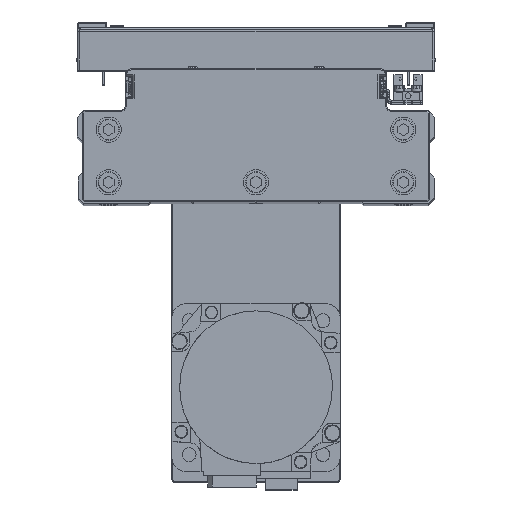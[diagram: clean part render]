
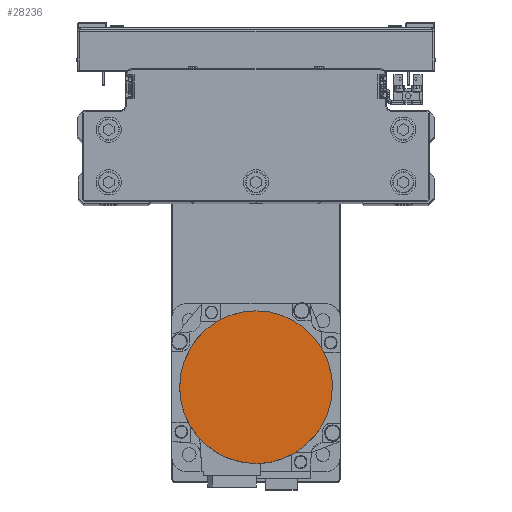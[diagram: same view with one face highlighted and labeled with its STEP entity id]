
A CAD part, top view. The second image highlights one B-rep face of the part: STEP entity #28236.
In plain terms, the highlighted planar face has unit normal (0, 0, 1) as drawn and (0, 0, -1) by its records, which use the part's own axes.
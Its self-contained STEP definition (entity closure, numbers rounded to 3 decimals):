
#55 = CARTESIAN_POINT ( 'NONE',  ( -31.502, 18.192, -122.2 ) ) ;
#732 = DIRECTION ( 'NONE',  ( 0., 0., 1. ) ) ;
#1511 = CARTESIAN_POINT ( 'NONE',  ( -27.348, -23.988, -122.2 ) ) ;
#1566 = VERTEX_POINT ( 'NONE', #12594 ) ;
#2055 = DIRECTION ( 'NONE',  ( -1., 0., 0. ) ) ;
#2376 = AXIS2_PLACEMENT_3D ( 'NONE', #31340, #732, #14365 ) ;
#3399 = CARTESIAN_POINT ( 'NONE',  ( -23.988, 27.348, -122.2 ) ) ;
#4074 = FACE_OUTER_BOUND ( 'NONE', #33951, .T. ) ;
#4852 = CARTESIAN_POINT ( 'NONE',  ( -32.628, -16.086, -122.2 ) ) ;
#5690 = CIRCLE ( 'NONE', #30690, 36.3 ) ;
#6741 = CARTESIAN_POINT ( 'NONE',  ( -16.086, 32.628, -122.2 ) ) ;
#6965 = AXIS2_PLACEMENT_3D ( 'NONE', #19067, #32686, #2055 ) ;
#6966 = EDGE_CURVE ( 'NONE', #1566, #20351, #32400, .T. ) ;
#8202 = CARTESIAN_POINT ( 'NONE',  ( -36.066, -4.752, -122.2 ) ) ;
#8421 = CARTESIAN_POINT ( 'NONE',  ( -4.752, -36.066, -122.2 ) ) ;
#10105 = CARTESIAN_POINT ( 'NONE',  ( -4.752, 36.066, -122.2 ) ) ;
#10329 = CARTESIAN_POINT ( 'NONE',  ( -36.066, 4.752, -122.2 ) ) ;
#10598 = CARTESIAN_POINT ( 'NONE',  ( 36.3, 0., -122.2 ) ) ;
#10806 = DIRECTION ( 'NONE',  ( -1., 0., 0. ) ) ;
#11444 = VERTEX_POINT ( 'NONE', #10598 ) ;
#11796 = CARTESIAN_POINT ( 'NONE',  ( -16.086, -32.628, -122.2 ) ) ;
#11867 = VERTEX_POINT ( 'NONE', #17484 ) ;
#12594 = CARTESIAN_POINT ( 'NONE',  ( -36.3, 0., -122.2 ) ) ;
#12706 = ORIENTED_EDGE ( 'NONE', *, *, #30549, .F. ) ;
#13683 = CARTESIAN_POINT ( 'NONE',  ( -32.628, 16.086, -122.2 ) ) ;
#14365 = DIRECTION ( 'NONE',  ( 1., 0., 0. ) ) ;
#14561 = ORIENTED_EDGE ( 'NONE', *, *, #15713, .F. ) ;
#15138 = CARTESIAN_POINT ( 'NONE',  ( -23.988, -27.348, -122.2 ) ) ;
#15713 = EDGE_CURVE ( 'NONE', #11867, #1566, #37974, .T. ) ;
#16387 = EDGE_CURVE ( 'NONE', #11444, #11867, #5690, .T. ) ;
#17032 = CARTESIAN_POINT ( 'NONE',  ( -27.348, 23.988, -122.2 ) ) ;
#17484 = CARTESIAN_POINT ( 'NONE',  ( 0., 36.3, -122.2 ) ) ;
#17722 = PLANE ( 'NONE',  #2376 ) ;
#18512 = CARTESIAN_POINT ( 'NONE',  ( -31.502, -18.192, -122.2 ) ) ;
#19067 = CARTESIAN_POINT ( 'NONE',  ( 0., 0., -122.2 ) ) ;
#20351 = VERTEX_POINT ( 'NONE', #26315 ) ;
#20399 = CARTESIAN_POINT ( 'NONE',  ( -18.192, 31.502, -122.2 ) ) ;
#20476 = ORIENTED_EDGE ( 'NONE', *, *, #6966, .F. ) ;
#21862 = CARTESIAN_POINT ( 'NONE',  ( -35.139, -9.412, -122.2 ) ) ;
#22071 = CARTESIAN_POINT ( 'NONE',  ( -2.376, -36.3, -122.2 ) ) ;
#23745 = CARTESIAN_POINT ( 'NONE',  ( -9.412, 35.139, -122.2 ) ) ;
#23968 = CARTESIAN_POINT ( 'NONE',  ( -36.3, 2.376, -122.2 ) ) ;
#25204 = CARTESIAN_POINT ( 'NONE',  ( -36.3, 0., -122.2 ) ) ;
#25425 = CARTESIAN_POINT ( 'NONE',  ( -11.696, -34.446, -122.2 ) ) ;
#26253 = CIRCLE ( 'NONE', #6965, 36.3 ) ;
#26315 = CARTESIAN_POINT ( 'NONE',  ( 0., -36.3, -122.2 ) ) ;
#27096 = CARTESIAN_POINT ( 'NONE',  ( 0., 36.3, -122.2 ) ) ;
#27309 = CARTESIAN_POINT ( 'NONE',  ( -34.446, 11.696, -122.2 ) ) ;
#27791 = CARTESIAN_POINT ( 'NONE',  ( 0., 0., -122.2 ) ) ;
#28236 = ADVANCED_FACE ( 'NONE', ( #4074 ), #17722, .F. ) ;
#28780 = CARTESIAN_POINT ( 'NONE',  ( -22.143, -28.862, -122.2 ) ) ;
#30549 = EDGE_CURVE ( 'NONE', #20351, #11444, #26253, .T. ) ;
#30669 = CARTESIAN_POINT ( 'NONE',  ( -28.862, 22.143, -122.2 ) ) ;
#30690 = AXIS2_PLACEMENT_3D ( 'NONE', #27791, #41433, #10806 ) ;
#31340 = CARTESIAN_POINT ( 'NONE',  ( 0., 0., -122.2 ) ) ;
#32129 = CARTESIAN_POINT ( 'NONE',  ( -28.862, -22.143, -122.2 ) ) ;
#32400 = B_SPLINE_CURVE_WITH_KNOTS ( 'NONE', 3,
 ( #25204, #38845, #8202, #21862, #35475, #4852, #18512, #32129, #1511, #15138, #28780, #42427, #11796, #25425, #39063, #8421, #22071, #35695 ),
 .UNSPECIFIED., .F., .F.,
 ( 4, 2, 2, 2, 2, 2, 2, 2, 4 ),
 ( 0., 0.125, 0.25, 0.375, 0.5, 0.625, 0.75, 0.875, 1. ),
 .UNSPECIFIED. ) ;
#32686 = DIRECTION ( 'NONE',  ( 0., 0., 1. ) ) ;
#33951 = EDGE_LOOP ( 'NONE', ( #12706, #20476, #14561, #34780 ) ) ;
#34017 = CARTESIAN_POINT ( 'NONE',  ( -22.143, 28.862, -122.2 ) ) ;
#34780 = ORIENTED_EDGE ( 'NONE', *, *, #16387, .F. ) ;
#35475 = CARTESIAN_POINT ( 'NONE',  ( -34.446, -11.696, -122.2 ) ) ;
#35695 = CARTESIAN_POINT ( 'NONE',  ( 0., -36.3, -122.2 ) ) ;
#37379 = CARTESIAN_POINT ( 'NONE',  ( -11.696, 34.446, -122.2 ) ) ;
#37596 = CARTESIAN_POINT ( 'NONE',  ( -36.3, 0., -122.2 ) ) ;
#37974 = B_SPLINE_CURVE_WITH_KNOTS ( 'NONE', 3,
 ( #27096, #40738, #10105, #23745, #37379, #6741, #20399, #34017, #3399, #17032, #30669, #55, #13683, #27309, #40964, #10329, #23968, #37596 ),
 .UNSPECIFIED., .F., .F.,
 ( 4, 2, 2, 2, 2, 2, 2, 2, 4 ),
 ( 0., 0.125, 0.25, 0.375, 0.5, 0.625, 0.75, 0.875, 1. ),
 .UNSPECIFIED. ) ;
#38845 = CARTESIAN_POINT ( 'NONE',  ( -36.3, -2.376, -122.2 ) ) ;
#39063 = CARTESIAN_POINT ( 'NONE',  ( -9.412, -35.139, -122.2 ) ) ;
#40738 = CARTESIAN_POINT ( 'NONE',  ( -2.376, 36.3, -122.2 ) ) ;
#40964 = CARTESIAN_POINT ( 'NONE',  ( -35.139, 9.412, -122.2 ) ) ;
#41433 = DIRECTION ( 'NONE',  ( 0., 0., 1. ) ) ;
#42427 = CARTESIAN_POINT ( 'NONE',  ( -18.192, -31.502, -122.2 ) ) ;
